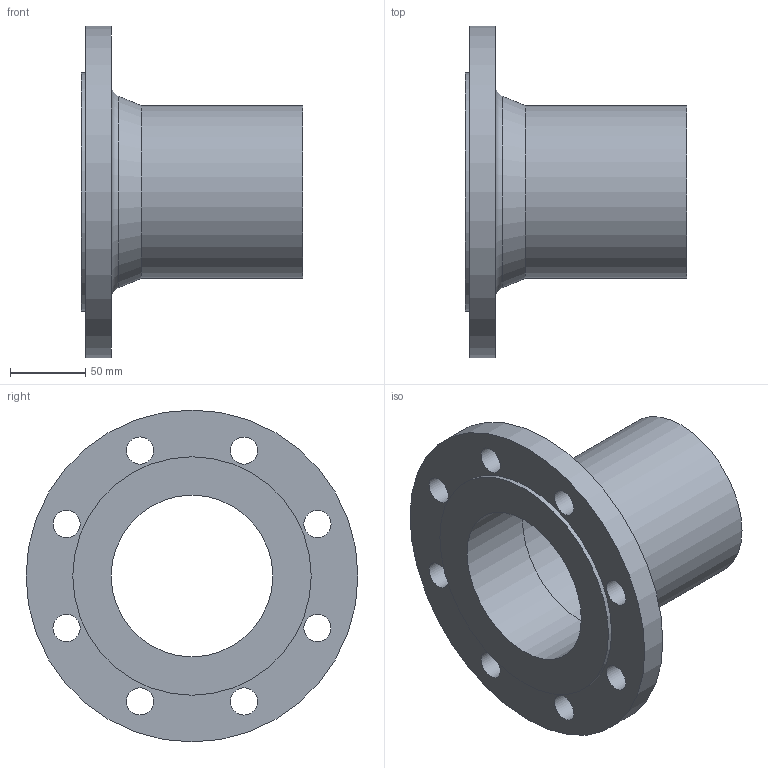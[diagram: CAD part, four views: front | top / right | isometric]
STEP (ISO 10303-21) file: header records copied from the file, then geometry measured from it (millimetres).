
FILE_DESCRIPTION(/* description */ (''),/* implementation_level */ '2;1');
FILE_NAME(/* name */ 'C:\Users\LK_9K\Desktop\STRAUB FLANSCHADAPTER DN100.stp',/* time_stamp */ '2021-04-12T08:33:09+02:00',/* author */ ('LK_9K'),/* organization */ (''),/* preprocessor_version */ 'ST-DEVELOPER v18.1',/* originating_system */ 'Autodesk Inventor 2020',/* authorisation */ '');
FILE_SCHEMA (('AUTOMOTIVE_DESIGN { 1 0 10303 214 3 1 1 }'));
Length unit declared in the file: millimetre
Products named in the file (1): Bauteil1
Bounding box: 147 x 220 x 220 mm (x, y, z)
Volume: 630890.4 mm3; surface area: 168333.4 mm2
Topology: 1 solids, 1 shells, 20 faces, 62 edges, 47 vertices
Faces by surface type: cylinder 13, plane 5, torus 1, cone 1
Full cylindrical faces by diameter (mm): 18 x8, 107.1 x1, 110.3 x1, 114.3 x1, 158 x1, 220 x1
Entity records: 827 total; most frequent: DIRECTION 152, CARTESIAN_POINT 130, ORIENTED_EDGE 124, AXIS2_PLACEMENT_3D 69, EDGE_CURVE 62, CIRCLE 48, VERTEX_POINT 47, EDGE_LOOP 41
